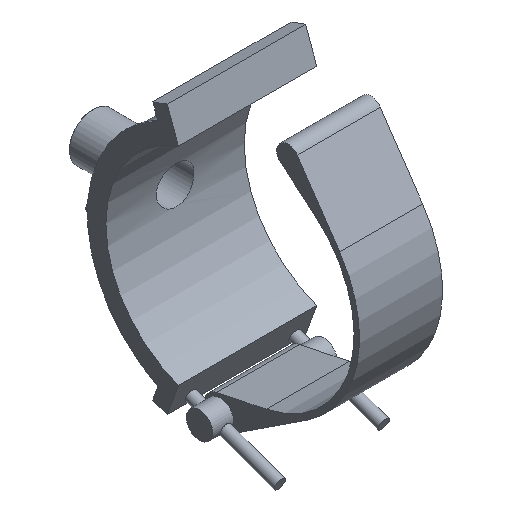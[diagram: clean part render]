
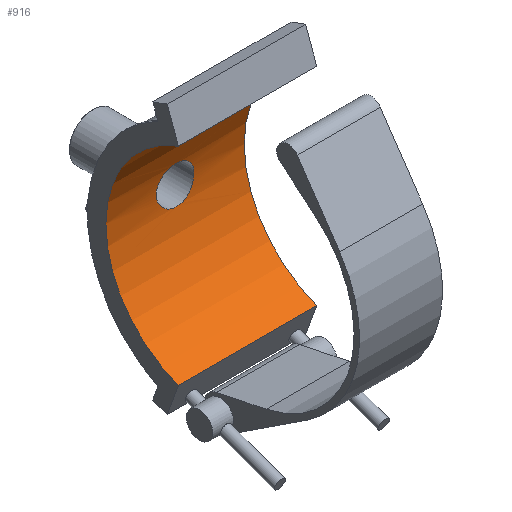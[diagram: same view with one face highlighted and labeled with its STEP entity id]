
A CAD part, isometric view. The second image highlights one B-rep face of the part: STEP entity #916.
In plain terms, the highlighted cylindrical face has radius 140.3 mm (diameter 280.6 mm), a partial arc.
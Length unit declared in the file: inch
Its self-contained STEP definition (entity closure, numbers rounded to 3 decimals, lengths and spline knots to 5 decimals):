
#26=FACE_BOUND('',#172,.T.);
#53=B_SPLINE_CURVE_WITH_KNOTS('',3,(#1765,#1766,#1767,#1768,#1769,#1770,
#1771,#1772,#1773,#1774,#1775,#1776,#1777,#1778,#1779,#1780,#1781,#1782),
 .UNSPECIFIED.,.F.,.F.,(4,2,2,2,2,2,2,2,4),(0.,0.45375,0.9075,
1.36124,1.81499,2.26873,2.72246,3.17619,
3.62993),.UNSPECIFIED.);
#54=B_SPLINE_CURVE_WITH_KNOTS('',3,(#1783,#1784,#1785,#1786,#1787,#1788,
#1789,#1790,#1791,#1792,#1793,#1794,#1795,#1796,#1797,#1798,#1799,#1800,
#1801,#1802,#1803,#1804,#1805,#1806,#1807,#1808,#1809,#1810,#1811,#1812,
#1813,#1814,#1815,#1816,#1817,#1818,#1819,#1820,#1821,#1822,#1823,#1824,
#1825,#1826,#1827,#1828,#1829,#1830,#1831,#1832),.UNSPECIFIED.,.F.,.F.,
(4,2,2,2,2,2,2,2,2,2,2,2,2,2,2,2,2,2,2,2,2,2,2,2,4),(3.62993,4.08366,
4.5374,4.99113,5.44487,5.89861,6.35236,
6.80611,7.25986,7.7136,8.16735,8.6211,
9.07485,9.52858,9.98232,10.43605,10.88978,
11.34352,11.79725,12.25099,12.70472,13.15847,
13.61222,14.06597,14.51971),.UNSPECIFIED.);
#107=FACE_OUTER_BOUND('',#171,.T.);
#171=EDGE_LOOP('',(#715,#716,#717,#718));
#172=EDGE_LOOP('',(#719,#720));
#249=LINE('',#1755,#311);
#251=LINE('',#1759,#313);
#311=VECTOR('',#1183,0.3937);
#313=VECTOR('',#1187,0.3937);
#357=CIRCLE('',#1002,5.52362);
#358=CIRCLE('',#1009,5.52362);
#426=VERTEX_POINT('',#1588);
#429=VERTEX_POINT('',#1594);
#438=VERTEX_POINT('',#1754);
#439=VERTEX_POINT('',#1758);
#440=VERTEX_POINT('',#1763);
#441=VERTEX_POINT('',#1764);
#531=EDGE_CURVE('',#429,#426,#357,.T.);
#543=EDGE_CURVE('',#429,#438,#249,.T.);
#545=EDGE_CURVE('',#439,#426,#251,.T.);
#547=EDGE_CURVE('',#438,#439,#358,.T.);
#548=EDGE_CURVE('',#440,#441,#53,.T.);
#549=EDGE_CURVE('',#441,#440,#54,.T.);
#715=ORIENTED_EDGE('',*,*,#543,.T.);
#716=ORIENTED_EDGE('',*,*,#547,.T.);
#717=ORIENTED_EDGE('',*,*,#545,.T.);
#718=ORIENTED_EDGE('',*,*,#531,.F.);
#719=ORIENTED_EDGE('',*,*,#548,.T.);
#720=ORIENTED_EDGE('',*,*,#549,.T.);
#880=CYLINDRICAL_SURFACE('',#1008,5.52362);
#916=ADVANCED_FACE('',(#107,#26),#880,.F.);
#1002=AXIS2_PLACEMENT_3D('',#1596,#1168,#1169);
#1008=AXIS2_PLACEMENT_3D('',#1761,#1189,#1190);
#1009=AXIS2_PLACEMENT_3D('',#1762,#1191,#1192);
#1168=DIRECTION('center_axis',(1.,0.,0.));
#1169=DIRECTION('ref_axis',(0.,0.004,-1.));
#1183=DIRECTION('',(1.,0.,0.));
#1187=DIRECTION('',(-1.,0.,0.));
#1189=DIRECTION('center_axis',(-1.,0.,0.));
#1190=DIRECTION('ref_axis',(0.,0.004,-1.));
#1191=DIRECTION('center_axis',(1.,0.,0.));
#1192=DIRECTION('ref_axis',(0.,0.004,-1.));
#1588=CARTESIAN_POINT('',(-6.93,1.88919,5.19051));
#1594=CARTESIAN_POINT('',(-6.93,1.88919,-5.19051));
#1596=CARTESIAN_POINT('Origin',(-6.93,0.,0.));
#1754=CARTESIAN_POINT('',(0.,1.88919,-5.19051));
#1755=CARTESIAN_POINT('',(0.,1.88919,-5.19051));
#1758=CARTESIAN_POINT('',(0.,1.88919,5.19051));
#1759=CARTESIAN_POINT('',(0.,1.88919,5.19051));
#1761=CARTESIAN_POINT('Origin',(0.,0.,0.));
#1762=CARTESIAN_POINT('Origin',(0.,0.,0.));
#1763=CARTESIAN_POINT('',(-3.465,5.44193,0.94646));
#1764=CARTESIAN_POINT('',(-2.51854,5.52362,0.));
#1765=CARTESIAN_POINT('Ctrl Pts',(-3.465,5.44193,0.94646));
#1766=CARTESIAN_POINT('Ctrl Pts',(-3.40545,5.44193,0.94646));
#1767=CARTESIAN_POINT('Ctrl Pts',(-3.34391,5.44294,0.94075));
#1768=CARTESIAN_POINT('Ctrl Pts',(-3.22156,5.44703,0.91674));
#1769=CARTESIAN_POINT('Ctrl Pts',(-3.16076,5.45012,0.89844));
#1770=CARTESIAN_POINT('Ctrl Pts',(-3.0442,5.45787,0.85011));
#1771=CARTESIAN_POINT('Ctrl Pts',(-2.98835,5.46252,0.82004));
#1772=CARTESIAN_POINT('Ctrl Pts',(-2.8851,5.4725,0.75058));
#1773=CARTESIAN_POINT('Ctrl Pts',(-2.8377,5.47781,0.7112));
#1774=CARTESIAN_POINT('Ctrl Pts',(-2.75381,5.48805,0.6273));
#1775=CARTESIAN_POINT('Ctrl Pts',(-2.71442,5.49334,0.5799));
#1776=CARTESIAN_POINT('Ctrl Pts',(-2.64496,5.50326,0.47665));
#1777=CARTESIAN_POINT('Ctrl Pts',(-2.61489,5.50788,0.4208));
#1778=CARTESIAN_POINT('Ctrl Pts',(-2.56656,5.51555,0.30424));
#1779=CARTESIAN_POINT('Ctrl Pts',(-2.54826,5.51859,0.24343));
#1780=CARTESIAN_POINT('Ctrl Pts',(-2.52425,5.52263,0.12109));
#1781=CARTESIAN_POINT('Ctrl Pts',(-2.51854,5.52362,0.05955));
#1782=CARTESIAN_POINT('Ctrl Pts',(-2.51854,5.52362,0.));
#1783=CARTESIAN_POINT('Ctrl Pts',(-2.51854,5.52362,0.));
#1784=CARTESIAN_POINT('Ctrl Pts',(-2.51854,5.52362,-0.05955));
#1785=CARTESIAN_POINT('Ctrl Pts',(-2.52425,5.52263,-0.12109));
#1786=CARTESIAN_POINT('Ctrl Pts',(-2.54826,5.51859,-0.24343));
#1787=CARTESIAN_POINT('Ctrl Pts',(-2.56656,5.51555,-0.30424));
#1788=CARTESIAN_POINT('Ctrl Pts',(-2.61489,5.50788,-0.4208));
#1789=CARTESIAN_POINT('Ctrl Pts',(-2.64496,5.50326,-0.47665));
#1790=CARTESIAN_POINT('Ctrl Pts',(-2.71442,5.49334,-0.5799));
#1791=CARTESIAN_POINT('Ctrl Pts',(-2.75381,5.48805,-0.6273));
#1792=CARTESIAN_POINT('Ctrl Pts',(-2.8377,5.47781,-0.7112));
#1793=CARTESIAN_POINT('Ctrl Pts',(-2.8851,5.4725,-0.75058));
#1794=CARTESIAN_POINT('Ctrl Pts',(-2.98835,5.46252,-0.82004));
#1795=CARTESIAN_POINT('Ctrl Pts',(-3.0442,5.45787,-0.85011));
#1796=CARTESIAN_POINT('Ctrl Pts',(-3.16076,5.45012,-0.89844));
#1797=CARTESIAN_POINT('Ctrl Pts',(-3.22156,5.44703,-0.91674));
#1798=CARTESIAN_POINT('Ctrl Pts',(-3.34391,5.44294,-0.94075));
#1799=CARTESIAN_POINT('Ctrl Pts',(-3.40545,5.44193,-0.94646));
#1800=CARTESIAN_POINT('Ctrl Pts',(-3.52455,5.44193,-0.94646));
#1801=CARTESIAN_POINT('Ctrl Pts',(-3.58609,5.44294,-0.94075));
#1802=CARTESIAN_POINT('Ctrl Pts',(-3.70844,5.44703,-0.91674));
#1803=CARTESIAN_POINT('Ctrl Pts',(-3.76924,5.45012,-0.89844));
#1804=CARTESIAN_POINT('Ctrl Pts',(-3.8858,5.45787,-0.85011));
#1805=CARTESIAN_POINT('Ctrl Pts',(-3.94165,5.46252,-0.82004));
#1806=CARTESIAN_POINT('Ctrl Pts',(-4.0449,5.4725,-0.75058));
#1807=CARTESIAN_POINT('Ctrl Pts',(-4.0923,5.47781,-0.7112));
#1808=CARTESIAN_POINT('Ctrl Pts',(-4.17619,5.48805,-0.6273));
#1809=CARTESIAN_POINT('Ctrl Pts',(-4.21558,5.49334,-0.5799));
#1810=CARTESIAN_POINT('Ctrl Pts',(-4.28504,5.50326,-0.47665));
#1811=CARTESIAN_POINT('Ctrl Pts',(-4.31511,5.50788,-0.4208));
#1812=CARTESIAN_POINT('Ctrl Pts',(-4.36344,5.51555,-0.30424));
#1813=CARTESIAN_POINT('Ctrl Pts',(-4.38174,5.51859,-0.24343));
#1814=CARTESIAN_POINT('Ctrl Pts',(-4.40575,5.52263,-0.12109));
#1815=CARTESIAN_POINT('Ctrl Pts',(-4.41146,5.52362,-0.05955));
#1816=CARTESIAN_POINT('Ctrl Pts',(-4.41146,5.52362,0.05955));
#1817=CARTESIAN_POINT('Ctrl Pts',(-4.40575,5.52263,0.12109));
#1818=CARTESIAN_POINT('Ctrl Pts',(-4.38174,5.51859,0.24343));
#1819=CARTESIAN_POINT('Ctrl Pts',(-4.36344,5.51555,0.30424));
#1820=CARTESIAN_POINT('Ctrl Pts',(-4.31511,5.50788,0.4208));
#1821=CARTESIAN_POINT('Ctrl Pts',(-4.28504,5.50326,0.47665));
#1822=CARTESIAN_POINT('Ctrl Pts',(-4.21558,5.49334,0.5799));
#1823=CARTESIAN_POINT('Ctrl Pts',(-4.17619,5.48805,0.6273));
#1824=CARTESIAN_POINT('Ctrl Pts',(-4.0923,5.47781,0.7112));
#1825=CARTESIAN_POINT('Ctrl Pts',(-4.0449,5.4725,0.75058));
#1826=CARTESIAN_POINT('Ctrl Pts',(-3.94165,5.46252,0.82004));
#1827=CARTESIAN_POINT('Ctrl Pts',(-3.8858,5.45787,0.85011));
#1828=CARTESIAN_POINT('Ctrl Pts',(-3.76924,5.45012,0.89844));
#1829=CARTESIAN_POINT('Ctrl Pts',(-3.70844,5.44703,0.91674));
#1830=CARTESIAN_POINT('Ctrl Pts',(-3.58609,5.44294,0.94075));
#1831=CARTESIAN_POINT('Ctrl Pts',(-3.52455,5.44193,0.94646));
#1832=CARTESIAN_POINT('Ctrl Pts',(-3.465,5.44193,0.94646));
